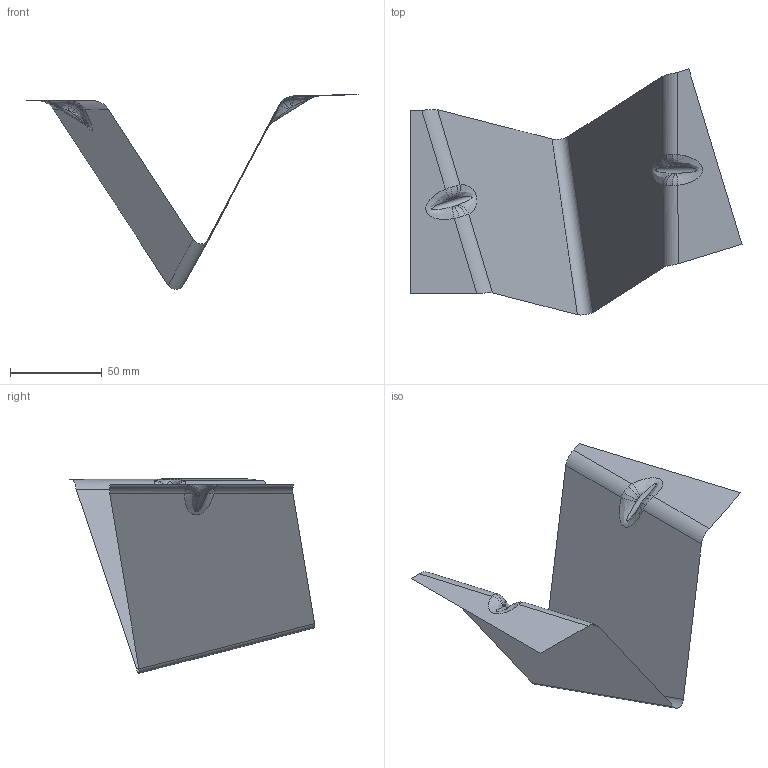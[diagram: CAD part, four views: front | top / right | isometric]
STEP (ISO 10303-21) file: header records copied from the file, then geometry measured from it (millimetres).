
FILE_DESCRIPTION(('CATIA V5 STEP Exchange'),'2;1');
FILE_NAME('C:\_Andres\UNIVERSIDAD\IQS\ASIGNATURAS\DAO\EXF\EXF-16172c\2inicio\Villarroya_Marquina_Ej03_v36.stp','2017-03-05T19:32:36+00:00',('none'),('none'),'CATIA Version 5-6 Release 2014 SP1 HF18','CATIA V5 STEP AP203','none');
FILE_SCHEMA(('CONFIG_CONTROL_DESIGN'));
Length unit declared in the file: millimetre
Products named in the file (1): Villarroya_Marquina_Ej03_v36
Bounding box: 181.15 x 134.1 x 106.36 mm (x, y, z)
Surface area: 27681.5 mm2 (no closed solid volume)
Topology: 0 solids, 1 shells, 31 faces, 78 edges, 48 vertices
Faces by surface type: bspline 16, plane 8, cylinder 7
Entity records: 2941 total; most frequent: CARTESIAN_POINT 2336, ORIENTED_EDGE 140, EDGE_CURVE 78, DIRECTION 52, B_SPLINE_CURVE_WITH_KNOTS 52, VERTEX_POINT 48, ADVANCED_FACE 31, EDGE_LOOP 31
